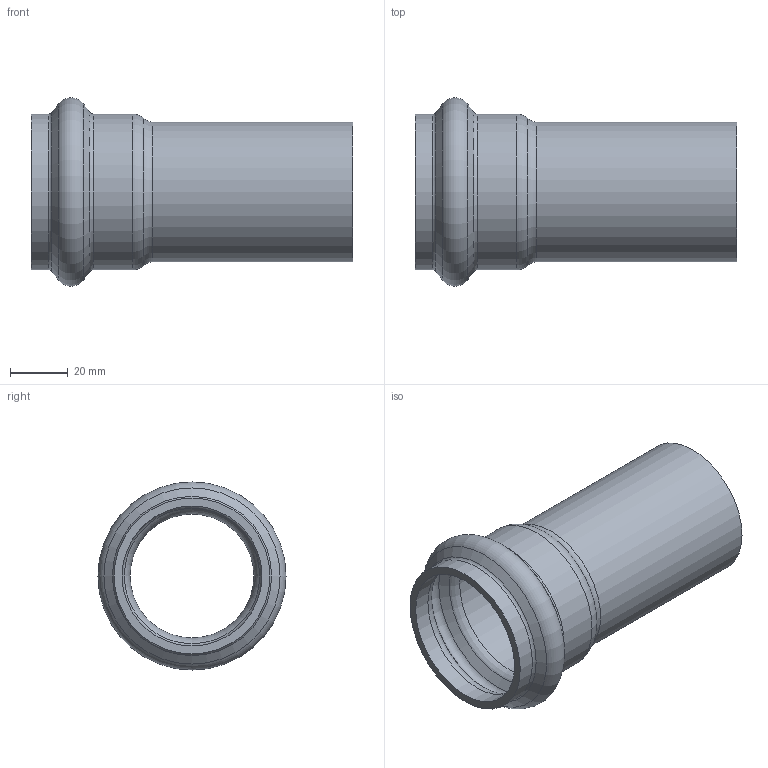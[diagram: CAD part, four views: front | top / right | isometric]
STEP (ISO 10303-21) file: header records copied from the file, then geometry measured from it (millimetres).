
FILE_DESCRIPTION(/* description */ ('VIC WELD ADAPTER STYLE P561 (P X T)','CAx-IF Rec.Pracs.---Representation and Presentation of Product Manufacturing Information (PMI)---4.0---2014-10-13'),/* implementation_level */ '2;1');
FILE_NAME(/* name */ 'C:\Users\Vjadhav\AppData\Roaming\Autodesk\ApplicationPlugins\Back Up\Victaulic_SS-Vic-Press-TP 304_Adapter Weld_Style P561 (VPxPE)\Victaulic_SS-Vic-Press-TP 304_Adapter Weld_Style P561 (VPxPE)_1.5 (40).stp',/* time_stamp */ '2020-08-12T15:21:25+06:00',/* author */ ('cgray'),/* organization */ ('Victaulic'),/* preprocessor_version */ 'ST-DEVELOPER v17.2',/* originating_system */ 'Autodesk Inventor 2019',/* authorisation */ '');
FILE_SCHEMA (('AP242_MANAGED_MODEL_BASED_3D_ENGINEERING_MIM_LF { 1 0 10303 442 1 1 4 }'));
Length unit declared in the file: inch
Products named in the file (1): P561-01.5
Bounding box: 111 x 64.94 x 64.94 mm (x, y, z)
Volume: 49077.8 mm3; surface area: 36292.7 mm2
Topology: 1 solids, 1 shells, 22 faces, 80 edges, 60 vertices
Faces by surface type: torus 10, cylinder 6, cone 4, plane 2
Full cylindrical faces by diameter (mm): 42.723 x1, 48.26 x3, 53.797 x2
Entity records: 1092 total; most frequent: DIRECTION 222, CARTESIAN_POINT 180, ORIENTED_EDGE 160, AXIS2_PLACEMENT_3D 106, EDGE_CURVE 80, CIRCLE 70, VERTEX_POINT 60, EDGE_LOOP 24
